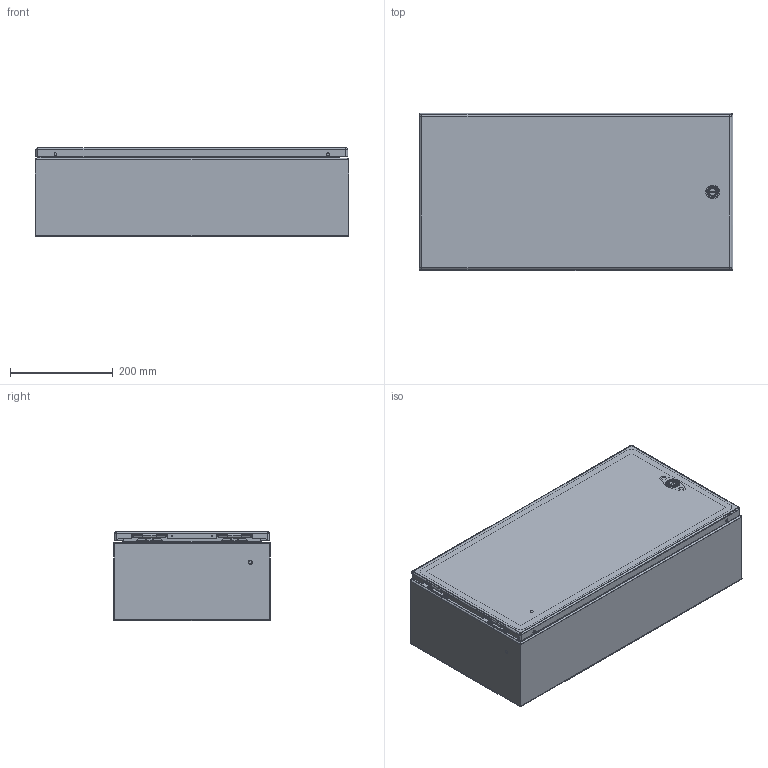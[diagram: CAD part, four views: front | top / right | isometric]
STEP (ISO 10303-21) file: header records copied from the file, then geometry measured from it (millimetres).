
FILE_DESCRIPTION (( 'STEP AP203' ), '1' );
FILE_NAME ('29391.step', '2015-03-30T06:02:28', ( '' ), ( '' ), 'SwSTEP 2.0', 'SolidWorks 2010', '' );
FILE_SCHEMA (( 'CONFIG_CONTROL_DESIGN' ));
Length unit declared in the file: inch
Products named in the file (23): 89116727_assy; 89116724_weldment; 89116721; 99401225; 64101001; 64201001; 87541994_Installed Height; 87541995; 64202001; 64210001; 64203001; 89116733; 87543027; 89076399; 89076193; 89056623; 87929507; 87929767; 87929769_Installed on Pin; 29391; 89116719; 89116717_default; 23271001_After Weld
Assembly tree (29 placements, depth 4):
  29391
    89116727_assy
      89116733
      64101001
        64203001
        64210001
        64202001
        87541995
        87541994_Installed Height
        64201001
      89116724_weldment
        89116721
        99401225
    87543027  x2
    89076399  x2
      89056623
      89076193
    89116719
      23271001_After Weld  x4
      99401225
      89116717_default
    87929507  x2
      87929767
      87929769_Installed on Pin
Bounding box: 609.6 x 304.8 x 173.1 mm (x, y, z)
Volume: 1042812 mm3; surface area: 1554740.9 mm2
Topology: 26 solids, 26 shells, 1252 faces, 3051 edges, 1866 vertices
Faces by surface type: plane 525, cylinder 429, bspline 144, torus 92, cone 54, sphere 8
Entity records: 33572 total; most frequent: CARTESIAN_POINT 9895, ORIENTED_EDGE 4480, DIRECTION 4226, EDGE_CURVE 2240, AXIS2_PLACEMENT_3D 1501, VERTEX_POINT 1380, LINE 1224, VECTOR 1224
